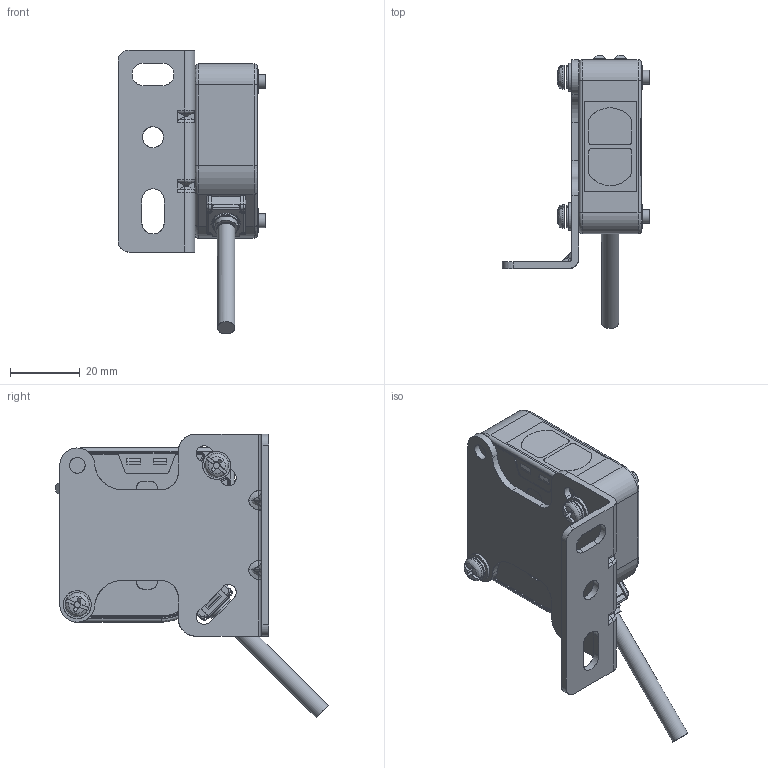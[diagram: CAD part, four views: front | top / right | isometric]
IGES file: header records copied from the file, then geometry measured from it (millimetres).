
Start section: SolidWorks IGES file using analytic representation for surfaces
Global section: file name: C:\Users\10118109\Desktop\器配季辑\1瞒 犁累己_2瞒 累诀_荐沥 器窃\BEN\BEN300-DDT_BEN300-DFR.IGS; native system: SolidWorks 2018; preprocessor: SolidWorks 2018; author: 10118109; date: 190701.155353; units: millimetre
Bounding box: 42.4 x 78.27 x 81.5 mm (x, y, z)
Surface area: 19756.3 mm2 (no closed solid volume)
Topology: 0 solids, 0 shells, 1269 faces, 9936 edges, 9882 vertices
Faces by surface type: bspline 969, revolution 300
